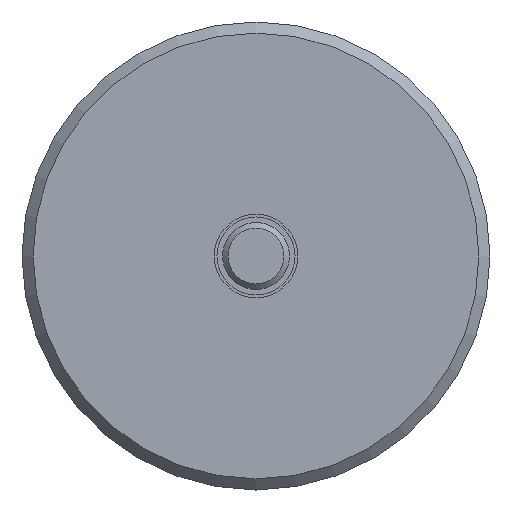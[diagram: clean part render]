
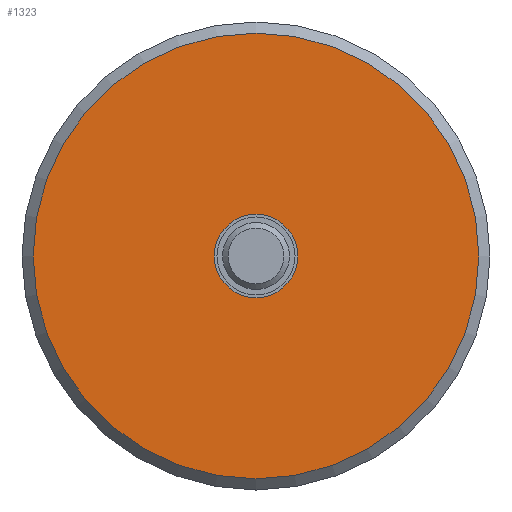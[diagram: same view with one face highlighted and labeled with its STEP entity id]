
A CAD part, left-side view. The second image highlights one B-rep face of the part: STEP entity #1323.
In plain terms, the highlighted planar face has unit normal (-1, 0, 0).
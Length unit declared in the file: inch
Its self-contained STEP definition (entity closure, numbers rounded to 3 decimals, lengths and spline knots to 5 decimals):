
#39=FACE_BOUND('',#301,.T.);
#218=FACE_OUTER_BOUND('',#300,.T.);
#300=EDGE_LOOP('',(#911));
#301=EDGE_LOOP('',(#912,#913));
#404=CIRCLE('',#1450,0.14764);
#405=CIRCLE('',#1451,0.14764);
#408=CIRCLE('',#1456,0.7874);
#529=VERTEX_POINT('',#2144);
#530=VERTEX_POINT('',#2145);
#533=VERTEX_POINT('',#2156);
#671=EDGE_CURVE('',#529,#530,#404,.T.);
#672=EDGE_CURVE('',#530,#529,#405,.T.);
#678=EDGE_CURVE('',#533,#533,#408,.T.);
#911=ORIENTED_EDGE('',*,*,#678,.F.);
#912=ORIENTED_EDGE('',*,*,#671,.T.);
#913=ORIENTED_EDGE('',*,*,#672,.T.);
#1199=PLANE('',#1460);
#1323=ADVANCED_FACE('',(#218,#39),#1199,.F.);
#1450=AXIS2_PLACEMENT_3D('',#2146,#1706,#1707);
#1451=AXIS2_PLACEMENT_3D('',#2147,#1708,#1709);
#1456=AXIS2_PLACEMENT_3D('',#2158,#1721,#1722);
#1460=AXIS2_PLACEMENT_3D('',#2165,#1730,#1731);
#1706=DIRECTION('center_axis',(1.,0.,0.));
#1707=DIRECTION('ref_axis',(0.,-1.,0.));
#1708=DIRECTION('center_axis',(1.,0.,0.));
#1709=DIRECTION('ref_axis',(0.,-1.,0.));
#1721=DIRECTION('center_axis',(1.,0.,0.));
#1722=DIRECTION('ref_axis',(0.,-1.,0.));
#1730=DIRECTION('center_axis',(1.,0.,0.));
#1731=DIRECTION('ref_axis',(0.,0.,1.));
#2144=CARTESIAN_POINT('',(-2.33762,-0.04634,0.80475));
#2145=CARTESIAN_POINT('',(-2.33762,0.24894,0.80475));
#2146=CARTESIAN_POINT('Origin',(-2.33762,0.1013,0.80475));
#2147=CARTESIAN_POINT('Origin',(-2.33762,0.1013,0.80475));
#2156=CARTESIAN_POINT('',(-2.33762,0.8887,0.80475));
#2158=CARTESIAN_POINT('Origin',(-2.33762,0.1013,0.80475));
#2165=CARTESIAN_POINT('Origin',(-2.33762,0.1013,0.80475));
